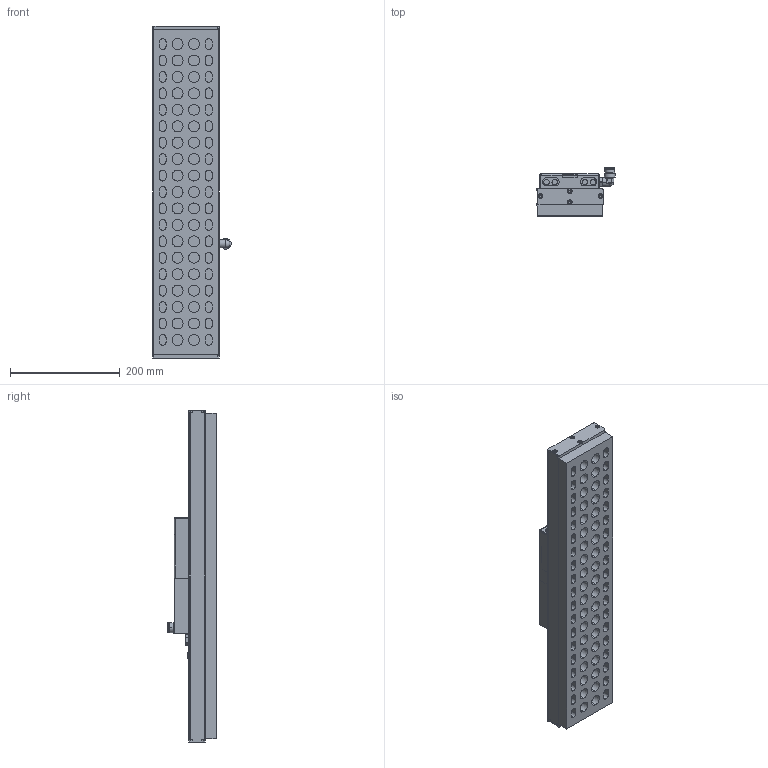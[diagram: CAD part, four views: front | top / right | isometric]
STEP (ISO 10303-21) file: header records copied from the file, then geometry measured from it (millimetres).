
FILE_DESCRIPTION (( 'STEP AP214' ), '1' );
FILE_NAME ('310 600 012.STEP', '2018-01-10T08:32:05', ( '' ), ( '' ), 'SwSTEP 2.0', 'SolidWorks 2017', '' );
FILE_SCHEMA (( 'AUTOMOTIVE_DESIGN' ));
Length unit declared in the file: millimetre
Products named in the file (1): 310 600 012
Bounding box: 142.75 x 89 x 606 mm (x, y, z)
Volume: 3816577.6 mm3; surface area: 336018.6 mm2
Topology: 1 solids, 2 shells, 786 faces, 1849 edges, 1184 vertices
Faces by surface type: cylinder 364, plane 338, torus 39, cone 36, bspline 6, sphere 3
Entity records: 31746 total; most frequent: CARTESIAN_POINT 4434, DIRECTION 4191, ORIENTED_EDGE 3688, EDGE_CURVE 1844, AXIS2_PLACEMENT_3D 1634, VERTEX_POINT 1181, VECTOR 923, LINE 923
